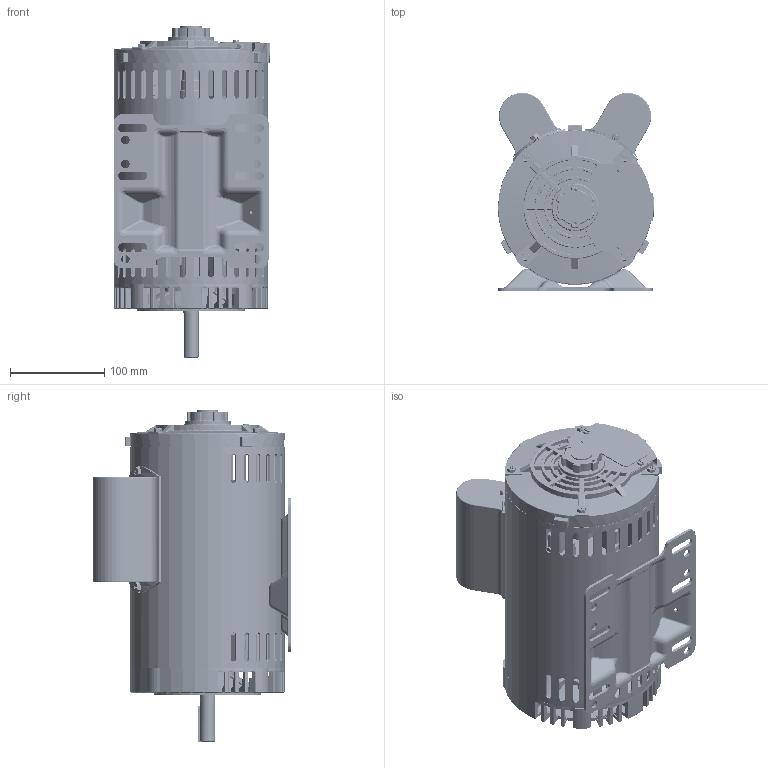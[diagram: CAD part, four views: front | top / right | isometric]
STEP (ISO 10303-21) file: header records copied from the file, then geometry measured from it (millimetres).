
FILE_DESCRIPTION (( 'STEP AP203' ), '1' );
FILE_NAME ('265CB.STEP', '2025-03-04T23:51:45', ( 'User' ), ( 'China' ), 'SwSTEP 2.0', 'SolidWorks 2019', '' );
FILE_SCHEMA (( 'CONFIG_CONTROL_DESIGN' ));
Products named in the file (1): 265CB
Bounding box: 167 x 210.87 x 353.15 mm (x, y, z)
Volume: 1881653.5 mm3; surface area: 733105.2 mm2
Topology: 26 solids, 29 shells, 4083 faces, 10815 edges, 6728 vertices
Faces by surface type: cylinder 1740, plane 1234, torus 457, bspline 341, cone 207, sphere 104
Entity records: 176080 total; most frequent: CARTESIAN_POINT 79685, ORIENTED_EDGE 21396, DIRECTION 18745, EDGE_CURVE 10698, AXIS2_PLACEMENT_3D 7106, VERTEX_POINT 6728, LINE 4533, VECTOR 4533
